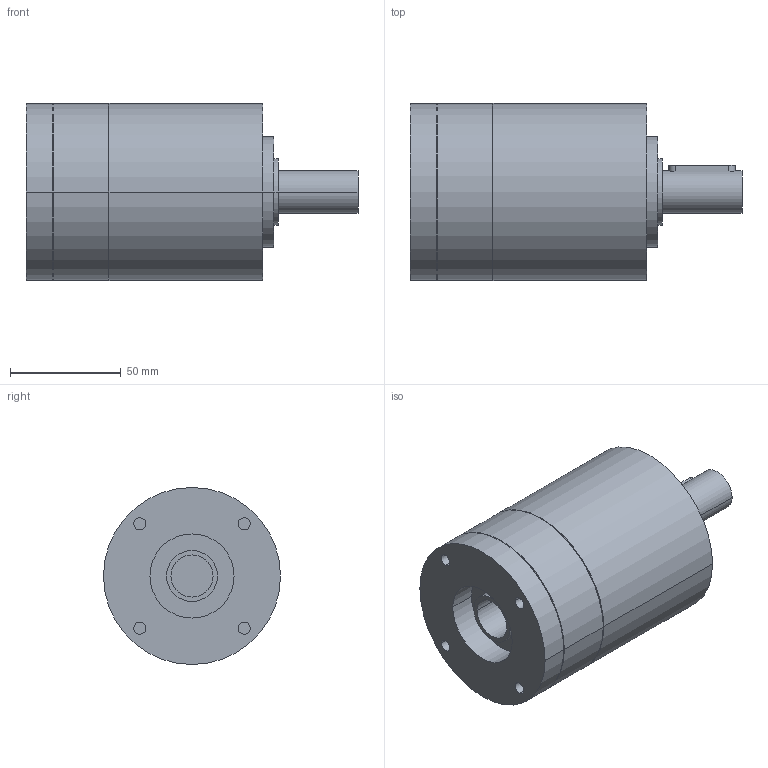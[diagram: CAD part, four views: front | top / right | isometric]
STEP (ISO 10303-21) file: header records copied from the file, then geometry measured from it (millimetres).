
FILE_DESCRIPTION(('CoCreate Modeling STEP Export'),'2;1');
FILE_NAME('GPR100_ig-3-4-5-6_19_B14_19_P01.stp','2014-08-26T10:08:31',(''),(''),'CoCreate Modeling STEP processor for AP214 (Solid Model)','CoCreate Modeling 16.00C 25-Feb-2009 (C) Parametric Technology GmbH','');
FILE_SCHEMA(('AUTOMOTIVE_DESIGN { 1 0 10303 214 1 1 1 1 }'));
Length unit declared in the file: millimetre
Products named in the file (2): GPR100_ig-3-4-5-6_19_B14_19_P01
Assembly tree (1 placements, depth 2):
  GPR100_ig-3-4-5-6_19_B14_19_P01
    GPR100_ig-3-4-5-6_19_B14_19_P01
Bounding box: 150 x 80 x 80 mm (x, y, z)
Volume: 534296.4 mm3; surface area: 47429.1 mm2
Topology: 1 solids, 1 shells, 77 faces, 196 edges, 140 vertices
Faces by surface type: cylinder 46, plane 25, cone 6
Entity records: 1961 total; most frequent: ORIENTED_EDGE 388, CARTESIAN_POINT 359, DIRECTION 252, EDGE_CURVE 194, VERTEX_POINT 140, EDGE_LOOP 98, AXIS2_PLACEMENT_3D 97, FACE_OUTER_BOUND 77
